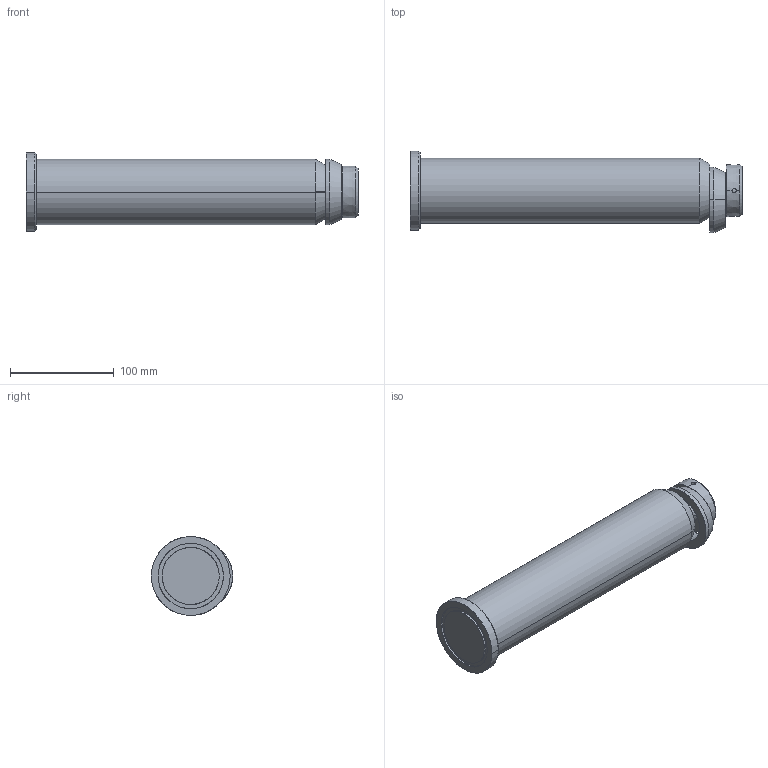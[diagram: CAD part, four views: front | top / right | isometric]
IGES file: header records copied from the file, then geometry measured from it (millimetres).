
Start section: START RECORD GO HERE.
Global section: file name: 395X-063-280.igs; native system: DASSAULT SYSTEMES CATIA V5 R20 - www.3ds.com; preprocessor: CATIA Version 5 Release 20 ; author: Utente; organization: NB04-ASUS; date: 20200410.171132; units: millimetre
Bounding box: 320 x 78.5 x 76 mm (x, y, z)
Surface area: 82492.7 mm2 (no closed solid volume)
Topology: 0 solids, 0 shells, 42 faces, 182 edges, 182 vertices
Faces by surface type: revolution 32, extrusion 10
